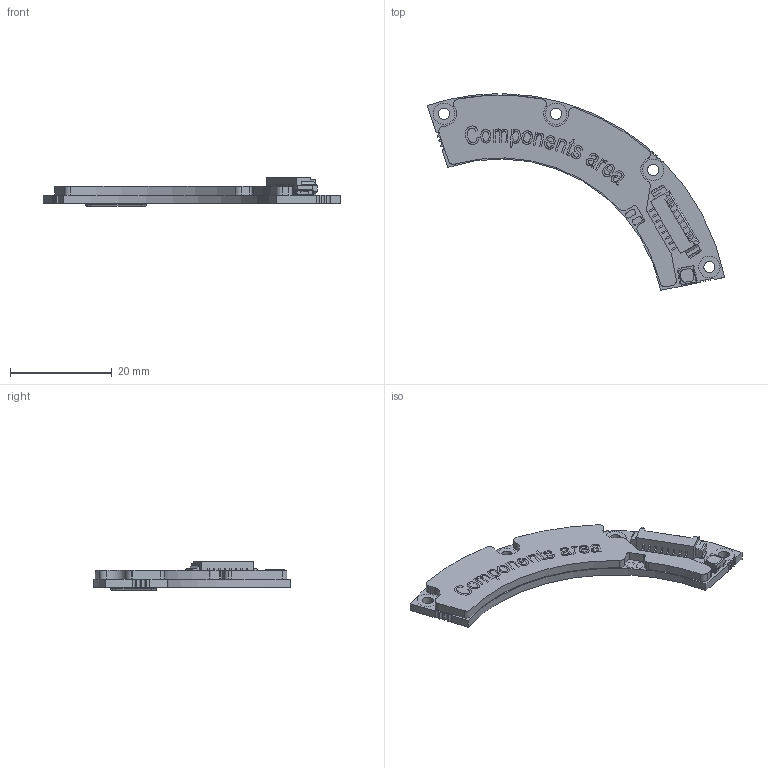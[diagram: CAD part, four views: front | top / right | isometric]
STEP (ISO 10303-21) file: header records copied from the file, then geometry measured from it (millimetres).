
FILE_DESCRIPTION (( 'STEP AP214' ), '1' );
FILE_NAME ('MB080xxxxxxDNx00.STEP', '2024-04-18T09:36:52', ( '' ), ( '' ), 'SwSTEP 2.0', 'SolidWorks 2022', '' );
FILE_SCHEMA (( 'AUTOMOTIVE_DESIGN' ));
Length unit declared in the file: millimetre
Products named in the file (1): MB080xxxxxxDNx00
Bounding box: 58.38 x 38.58 x 5.68 mm (x, y, z)
Volume: 2395.3 mm3; surface area: 2810.7 mm2
Topology: 3 solids, 3 shells, 784 faces, 2182 edges, 1434 vertices
Faces by surface type: plane 489, cylinder 156, bspline 139
Entity records: 40043 total; most frequent: CARTESIAN_POINT 11859, ORIENTED_EDGE 4364, DIRECTION 3518, EDGE_CURVE 2182, VECTOR 1584, LINE 1584, VERTEX_POINT 1434, AXIS2_PLACEMENT_3D 967
